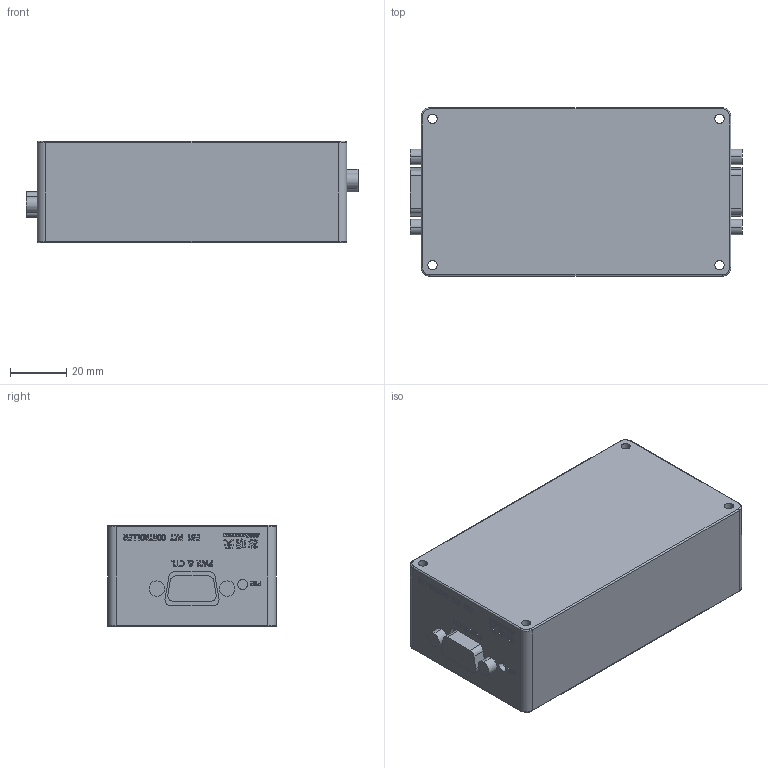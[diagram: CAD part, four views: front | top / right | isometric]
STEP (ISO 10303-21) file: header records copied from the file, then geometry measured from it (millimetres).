
FILE_DESCRIPTION (( 'STEP AP203' ), '1' );
FILE_NAME ('E51.B3S-I萇埭俋褲3D耀倰.STEP', '2021-10-14T05:23:22', ( 'Micorosoft' ), ( 'Micorosoft' ), 'SwSTEP 2.0', 'SolidWorks 2016', '' );
FILE_SCHEMA (( 'CONFIG_CONTROL_DESIGN' ));
Length unit declared in the file: millimetre
Products named in the file (1): E51.B3S-I萇埭俋褲3D耀倰
Bounding box: 118 x 60 x 36 mm (x, y, z)
Volume: 201034.1 mm3; surface area: 41547.2 mm2
Topology: 1 solids, 3 shells, 1844 faces, 4924 edges, 3264 vertices
Faces by surface type: plane 1036, bspline 655, cylinder 129, cone 24
Entity records: 83257 total; most frequent: CARTESIAN_POINT 41416, ORIENTED_EDGE 9832, DIRECTION 6268, EDGE_CURVE 4916, LINE 3340, VECTOR 3340, VERTEX_POINT 3264, EDGE_LOOP 2040
